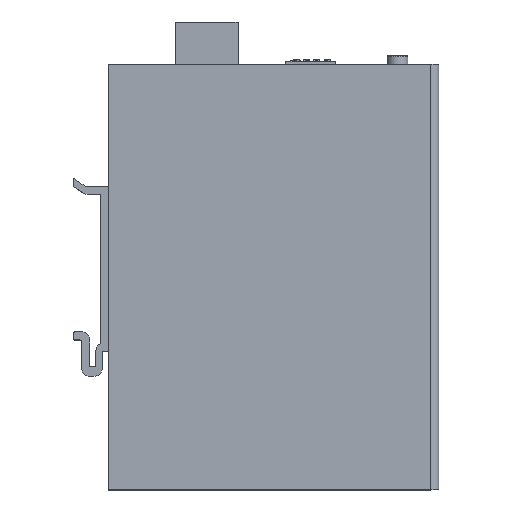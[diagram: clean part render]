
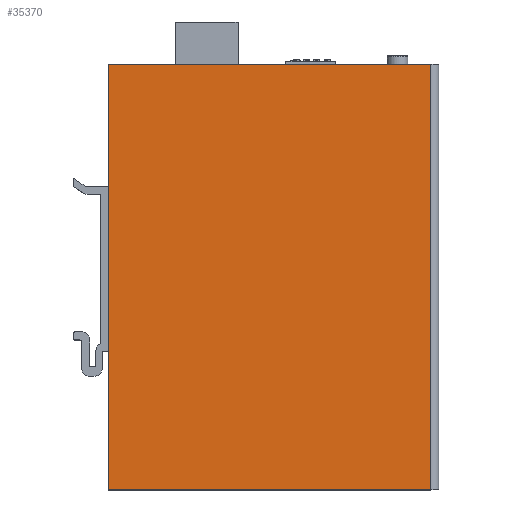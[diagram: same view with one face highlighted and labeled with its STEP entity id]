
A CAD part, top view. The second image highlights one B-rep face of the part: STEP entity #35370.
In plain terms, the highlighted planar face has unit normal (0, 0, 1).
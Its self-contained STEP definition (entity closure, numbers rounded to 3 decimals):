
#5691=DIRECTION('',(-1.,0.,0.));
#5692=VECTOR('',#5691,78.);
#5693=CARTESIAN_POINT('',(49.041,-10.504,116.189));
#5694=LINE('',#5693,#5692);
#5717=DIRECTION('',(-1.,0.,0.));
#5718=VECTOR('',#5717,78.);
#5719=CARTESIAN_POINT('',(49.041,92.496,116.189));
#5720=LINE('',#5719,#5718);
#5771=DIRECTION('',(0.,1.,0.));
#5772=VECTOR('',#5771,103.);
#5773=CARTESIAN_POINT('',(-28.959,-10.504,
116.189));
#5774=LINE('',#5773,#5772);
#7639=DIRECTION('',(0.,-1.,0.));
#7640=VECTOR('',#7639,103.);
#7641=CARTESIAN_POINT('',(49.041,92.496,116.189));
#7642=LINE('',#7641,#7640);
#24801=CARTESIAN_POINT('',(49.041,92.496,116.189));
#24803=VERTEX_POINT('',#24801);
#26809=CARTESIAN_POINT('',(49.041,-10.504,
116.189));
#26810=VERTEX_POINT('',#26809);
#27376=CARTESIAN_POINT('',(-28.959,-10.504,
116.189));
#27377=VERTEX_POINT('',#27376);
#27474=CARTESIAN_POINT('',(-28.959,92.496,
116.189));
#27475=VERTEX_POINT('',#27474);
#35356=CARTESIAN_POINT('',(-28.959,95.996,
116.189));
#35357=DIRECTION('',(0.,0.,-1.));
#35358=DIRECTION('',(-1.,0.,0.));
#35359=AXIS2_PLACEMENT_3D('',#35356,#35357,#35358);
#35360=PLANE('',#35359);
#35362=ORIENTED_EDGE('',*,*,#35361,.F.);
#35364=ORIENTED_EDGE('',*,*,#35363,.T.);
#35365=ORIENTED_EDGE('',*,*,#35342,.T.);
#35367=ORIENTED_EDGE('',*,*,#35366,.T.);
#35368=EDGE_LOOP('',(#35362,#35364,#35365,#35367));
#35369=FACE_OUTER_BOUND('',#35368,.F.);
#35370=ADVANCED_FACE('',(#35369),#35360,.F.);
#35342=EDGE_CURVE('',#26810,#27377,#5694,.T.);
#35361=EDGE_CURVE('',#24803,#27475,#5720,.T.);
#35363=EDGE_CURVE('',#24803,#26810,#7642,.T.);
#35366=EDGE_CURVE('',#27377,#27475,#5774,.T.);
